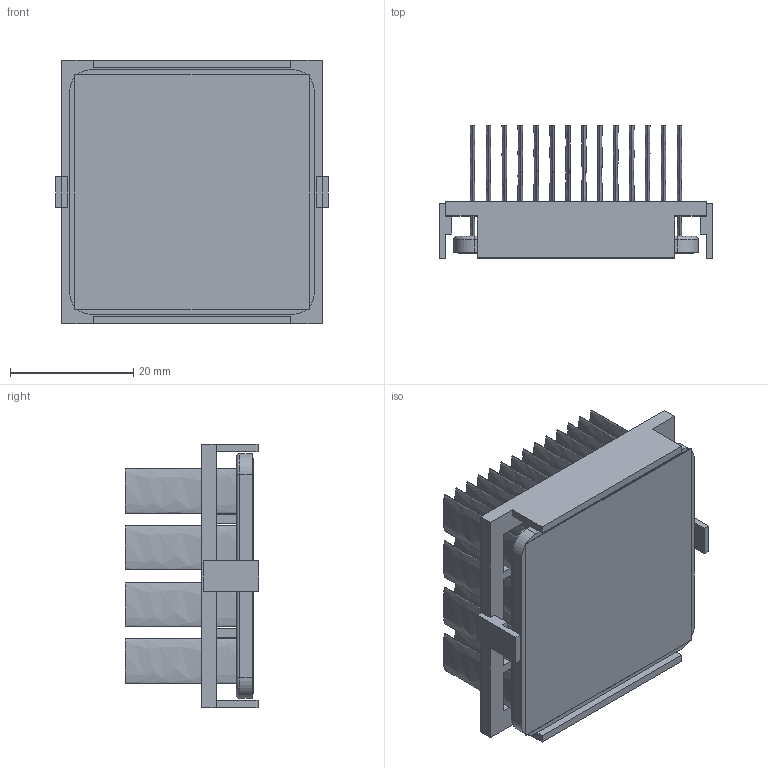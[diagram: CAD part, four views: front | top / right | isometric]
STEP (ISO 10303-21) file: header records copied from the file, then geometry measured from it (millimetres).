
FILE_DESCRIPTION (( 'STEP AP214' ), '1' );
FILE_NAME ('INM40001-21W-2.6O.STEP', '2023-02-21T17:40:57', ( '' ), ( '' ), 'SwSTEP 2.0', 'SolidWorks 2020', '' );
FILE_SCHEMA (( 'AUTOMOTIVE_DESIGN' ));
Length unit declared in the file: inch
Products named in the file (1): INM40001-21W-2.6O
Bounding box: 44.2 x 21.6 x 42.7 mm (x, y, z)
Volume: 10878.2 mm3; surface area: 24382.5 mm2
Topology: 3 solids, 3 shells, 250 faces, 556 edges, 368 vertices
Faces by surface type: plane 126, bspline 112, cylinder 8, torus 4
Entity records: 10428 total; most frequent: CARTESIAN_POINT 2631, ORIENTED_EDGE 1112, DIRECTION 630, EDGE_CURVE 556, VERTEX_POINT 368, LINE 312, VECTOR 312, EDGE_LOOP 308
